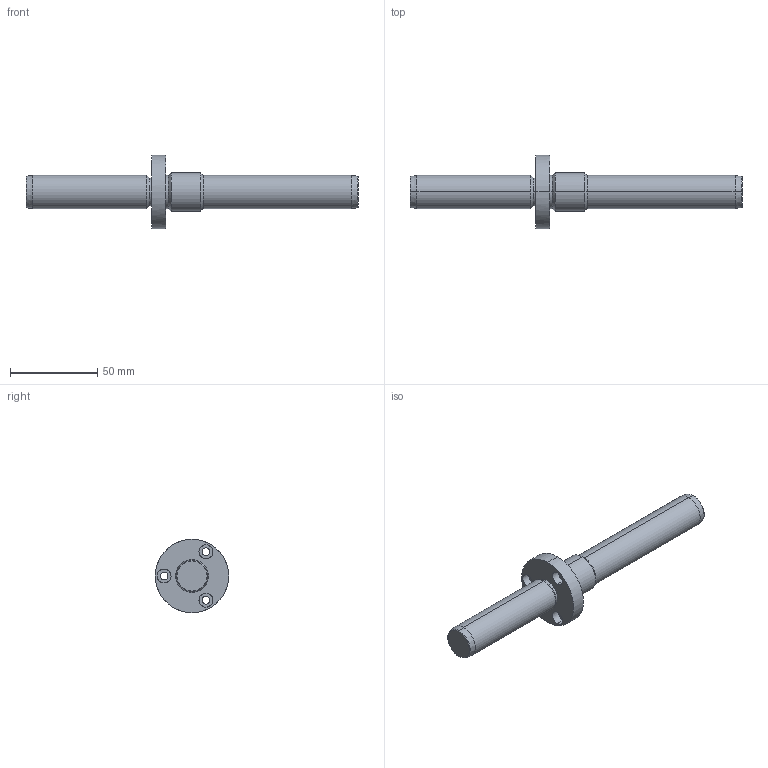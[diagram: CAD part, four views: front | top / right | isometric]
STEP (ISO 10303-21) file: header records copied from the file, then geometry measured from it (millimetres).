
FILE_DESCRIPTION(('CATIA V5 STEP Exchange'),'2;1');
FILE_NAME('C:\Users\Utente\Desktop\IO LAVORO\3D X SITO CF\X SITO\721\721-19x190.stp','2021-01-01T17:33:20+00:00',('none'),('none'),'CATIA Version 5 Release 20 GA (IN-10)','CATIA V5 STEP AP203','none');
FILE_SCHEMA(('CONFIG_CONTROL_DESIGN'));
Length unit declared in the file: millimetre
Products named in the file (1): 721-19x190
Bounding box: 190 x 42 x 42 mm (x, y, z)
Volume: 63291.9 mm3; surface area: 15346.9 mm2
Topology: 1 solids, 1 shells, 45 faces, 150 edges, 112 vertices
Faces by surface type: cylinder 24, cone 10, plane 7, torus 4
Entity records: 2060 total; most frequent: CARTESIAN_POINT 730, ORIENTED_EDGE 300, DIRECTION 206, EDGE_CURVE 150, AXIS2_PLACEMENT_3D 128, VERTEX_POINT 112, CIRCLE 82, EDGE_LOOP 56
